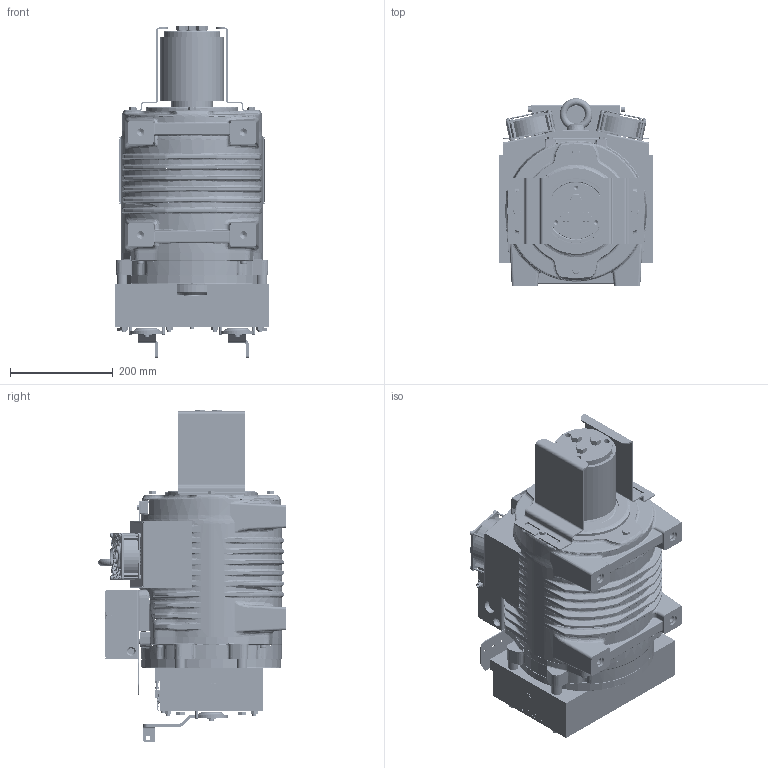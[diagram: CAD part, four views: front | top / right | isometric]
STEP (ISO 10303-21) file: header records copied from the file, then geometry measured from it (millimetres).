
FILE_DESCRIPTION((''),'2;1');
FILE_NAME('00366577_ASM','2023-06-05T12:18:38',('AsgharM'),('Sicor spa'),'CREO PARAMETRIC BY PTC INC, 2022164','CREO PARAMETRIC BY PTC INC, 2022164','');
FILE_SCHEMA(('CONFIG_CONTROL_DESIGN'));
Products named in the file (18): SG30_2023; G__120; _120_125; 00073486; GROWER_M12_GRO0002; TEM12X80_VIT0087; 00246001; M4_FTT_C; 00254619_ASM; 00254091; 00254090; 00254089_ASM; 00257271; 00042420_M4X50; TEM6X12_VIR0184; 00000263; 00257441_ASM; 00366577_ASM
Assembly tree (39 placements, depth 4):
  00366577_ASM
    SG30_2023
    G__120  x2
    _120_125
    00073486
    GROWER_M12_GRO0002  x3
    TEM12X80_VIT0087  x3
    00257441_ASM
      00254619_ASM
        00246001
        M4_FTT_C  x8
      00254089_ASM  x2
        00254091
        00254090
      00257271  x2
      00042420_M4X50  x8
      TEM6X12_VIR0184  x2
      00000263
Bounding box: 300.4 x 364.99 x 646.22 mm (x, y, z)
Volume: 1650425.7 mm3; surface area: 1769961.6 mm2
Topology: 36 solids, 289 shells, 4922 faces, 17045 edges, 12228 vertices
Faces by surface type: plane 1972, cylinder 1185, bspline 949, torus 401, cone 387, sphere 28
Entity records: 235855 total; most frequent: CARTESIAN_POINT 111262, ORIENTED_EDGE 24106, DIRECTION 23765, EDGE_CURVE 15571, VERTEX_POINT 11355, VECTOR 9071, LINE 9071, AXIS2_PLACEMENT_3D 7347
